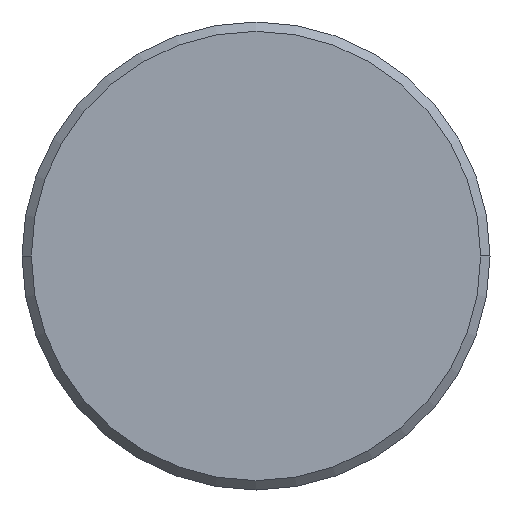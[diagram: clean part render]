
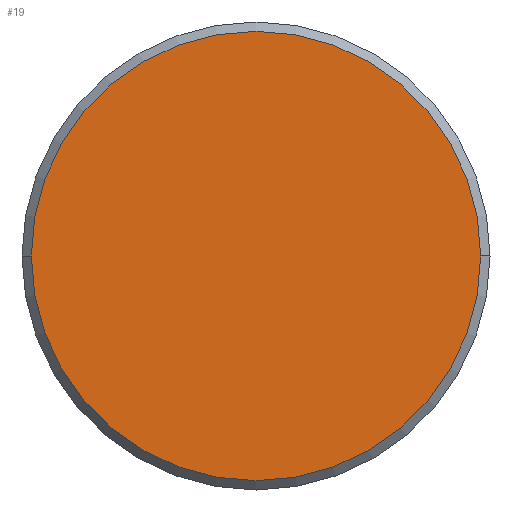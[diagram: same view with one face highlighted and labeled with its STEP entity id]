
A CAD part, left-side view. The second image highlights one B-rep face of the part: STEP entity #19.
In plain terms, the highlighted planar face has unit normal (-1, 0, 0).
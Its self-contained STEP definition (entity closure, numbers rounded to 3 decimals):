
#5 = CARTESIAN_POINT ( 'NONE',  ( -62., 0., 0. ) ) ;
#19 = ADVANCED_FACE ( 'NONE', ( #100 ), #306, .T. ) ;
#47 = DIRECTION ( 'NONE',  ( 0., 1., 0. ) ) ;
#94 = CIRCLE ( 'NONE', #267, 12. ) ;
#100 = FACE_OUTER_BOUND ( 'NONE', #113, .T. ) ;
#105 = CARTESIAN_POINT ( 'NONE',  ( -62., -12., 0. ) ) ;
#113 = EDGE_LOOP ( 'NONE', ( #215, #150 ) ) ;
#117 = AXIS2_PLACEMENT_3D ( 'NONE', #5, #227, #47 ) ;
#127 = EDGE_CURVE ( 'NONE', #142, #225, #94, .T. ) ;
#142 = VERTEX_POINT ( 'NONE', #105 ) ;
#150 = ORIENTED_EDGE ( 'NONE', *, *, #127, .F. ) ;
#172 = DIRECTION ( 'NONE',  ( 1., 0., 0. ) ) ;
#187 = DIRECTION ( 'NONE',  ( 0., 1., 0. ) ) ;
#188 = CARTESIAN_POINT ( 'NONE',  ( -62., 0., 0. ) ) ;
#215 = ORIENTED_EDGE ( 'NONE', *, *, #360, .F. ) ;
#225 = VERTEX_POINT ( 'NONE', #284 ) ;
#227 = DIRECTION ( 'NONE',  ( 1., 0., 0. ) ) ;
#267 = AXIS2_PLACEMENT_3D ( 'NONE', #188, #172, #187 ) ;
#284 = CARTESIAN_POINT ( 'NONE',  ( -62., 12., 0. ) ) ;
#293 = DIRECTION ( 'NONE',  ( -1., 0., 0. ) ) ;
#295 = AXIS2_PLACEMENT_3D ( 'NONE', #326, #293, #305 ) ;
#305 = DIRECTION ( 'NONE',  ( 0., -1., 0. ) ) ;
#306 = PLANE ( 'NONE',  #295 ) ;
#311 = CIRCLE ( 'NONE', #117, 12. ) ;
#326 = CARTESIAN_POINT ( 'NONE',  ( -62., 0., 0. ) ) ;
#360 = EDGE_CURVE ( 'NONE', #225, #142, #311, .T. ) ;
